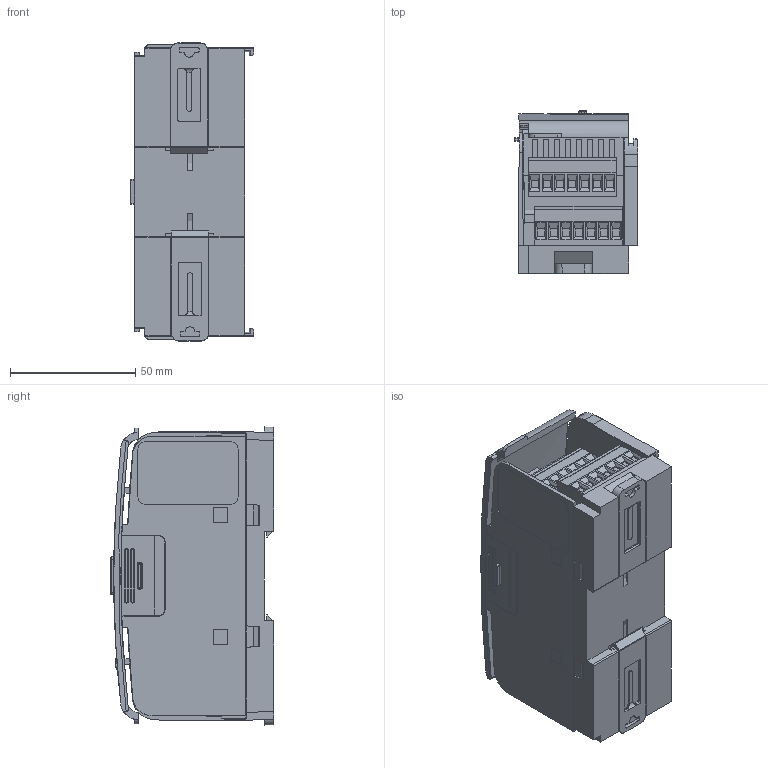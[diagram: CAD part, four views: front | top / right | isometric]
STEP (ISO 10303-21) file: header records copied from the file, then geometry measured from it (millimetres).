
FILE_DESCRIPTION (( 'STEP AP214' ), '1' );
FILE_NAME ('Uni-IO (slim).STEP', '2014-10-20T06:37:17', ( 'dell' ), ( '' ), 'SwSTEP 2.0', 'SolidWorks 2011', '' );
FILE_SCHEMA (( 'AUTOMOTIVE_DESIGN' ));
Length unit declared in the file: millimetre
Products named in the file (1): Uni-IO (slim)
Bounding box: 49.53 x 65.21 x 119.12 mm (x, y, z)
Volume: 259852 mm3; surface area: 81237.4 mm2
Topology: 18 solids, 40 shells, 3117 faces, 8287 edges, 5403 vertices
Faces by surface type: plane 1953, bspline 534, cylinder 360, cone 224, torus 42, sphere 4
Entity records: 113223 total; most frequent: CARTESIAN_POINT 40138, ORIENTED_EDGE 16574, DIRECTION 12655, EDGE_CURVE 8287, LINE 5425, VECTOR 5425, VERTEX_POINT 5403, AXIS2_PLACEMENT_3D 3615
